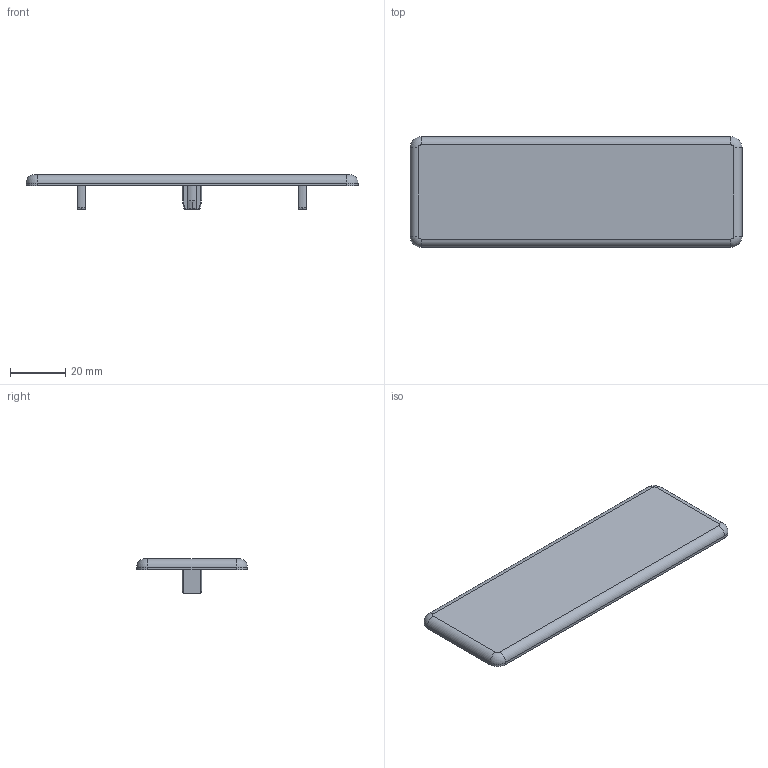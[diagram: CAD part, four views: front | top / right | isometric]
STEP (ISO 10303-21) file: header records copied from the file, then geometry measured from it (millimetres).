
FILE_DESCRIPTION (( 'STEP AP203' ), '1' );
FILE_NAME ('0108AK12040.STEP', '2024-03-07T09:14:43', ( 'Windows-Benutzer' ), ( '' ), 'SwSTEP 2.0', 'SolidWorks 2023', '' );
FILE_SCHEMA (( 'CONFIG_CONTROL_DESIGN' ));
Length unit declared in the file: millimetre
Products named in the file (1): 0108AK12040
Bounding box: 120 x 40 x 12.5 mm (x, y, z)
Volume: 15314.9 mm3; surface area: 11315.9 mm2
Topology: 1 solids, 1 shells, 71 faces, 185 edges, 120 vertices
Faces by surface type: plane 32, cylinder 19, bspline 11, cone 5, torus 4
Entity records: 2435 total; most frequent: CARTESIAN_POINT 687, ORIENTED_EDGE 370, DIRECTION 326, EDGE_CURVE 185, VERTEX_POINT 120, AXIS2_PLACEMENT_3D 115, VECTOR 96, LINE 96
